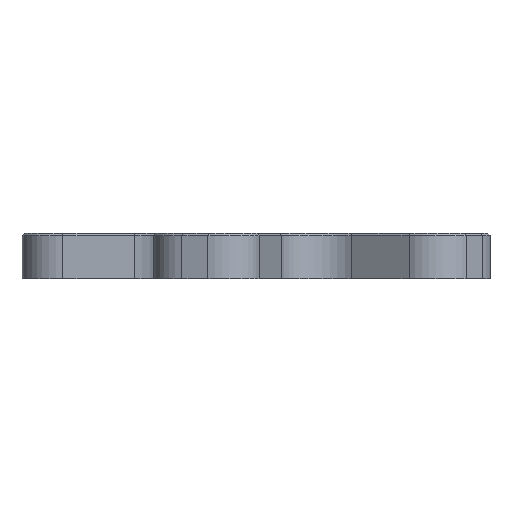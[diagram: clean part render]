
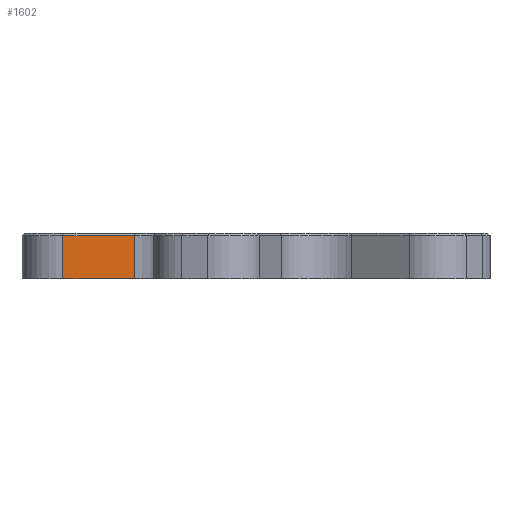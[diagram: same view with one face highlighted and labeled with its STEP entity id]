
A CAD part, left-side view. The second image highlights one B-rep face of the part: STEP entity #1602.
In plain terms, the highlighted planar face has unit normal (-1, 0, 0).
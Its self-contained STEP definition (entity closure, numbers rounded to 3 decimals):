
#632 = CARTESIAN_POINT ( 'NONE',  ( -12., 46., 10. ) ) ;
#723 = DIRECTION ( 'NONE',  ( 0., 0., -1. ) ) ;
#738 = CARTESIAN_POINT ( 'NONE',  ( -12., 46., 0. ) ) ;
#794 = VECTOR ( 'NONE', #4817, 1000. ) ;
#967 = LINE ( 'NONE', #4117, #794 ) ;
#1090 = ORIENTED_EDGE ( 'NONE', *, *, #9017, .F. ) ;
#1205 = LINE ( 'NONE', #7351, #9568 ) ;
#1282 = LINE ( 'NONE', #632, #9021 ) ;
#1602 = ADVANCED_FACE ( 'NONE', ( #6240 ), #2203, .F. ) ;
#2005 = CARTESIAN_POINT ( 'NONE',  ( -12., 46., 9.5 ) ) ;
#2108 = DIRECTION ( 'NONE',  ( 0., 0., -1. ) ) ;
#2114 = DIRECTION ( 'NONE',  ( 1., 0., 0. ) ) ;
#2115 = CARTESIAN_POINT ( 'NONE',  ( -12., 46., 10. ) ) ;
#2203 = PLANE ( 'NONE',  #4865 ) ;
#2660 = EDGE_CURVE ( 'NONE', #3498, #9148, #6561, .T. ) ;
#2823 = CARTESIAN_POINT ( 'NONE',  ( -12., 46., 9.5 ) ) ;
#2836 = VERTEX_POINT ( 'NONE', #738 ) ;
#2842 = DIRECTION ( 'NONE',  ( 0., 1., 0. ) ) ;
#3267 = EDGE_CURVE ( 'NONE', #2836, #3649, #1205, .T. ) ;
#3498 = VERTEX_POINT ( 'NONE', #6288 ) ;
#3649 = VERTEX_POINT ( 'NONE', #5858 ) ;
#3752 = ORIENTED_EDGE ( 'NONE', *, *, #4423, .T. ) ;
#4117 = CARTESIAN_POINT ( 'NONE',  ( -12., 30.28, 10. ) ) ;
#4423 = EDGE_CURVE ( 'NONE', #9148, #2836, #1282, .T. ) ;
#4616 = ORIENTED_EDGE ( 'NONE', *, *, #2660, .T. ) ;
#4817 = DIRECTION ( 'NONE',  ( 0., 0., -1. ) ) ;
#4865 = AXIS2_PLACEMENT_3D ( 'NONE', #2115, #2114, #2108 ) ;
#5858 = CARTESIAN_POINT ( 'NONE',  ( -12., 30.28, 0. ) ) ;
#6240 = FACE_OUTER_BOUND ( 'NONE', #8349, .T. ) ;
#6288 = CARTESIAN_POINT ( 'NONE',  ( -12., 30.28, 9.5 ) ) ;
#6561 = LINE ( 'NONE', #2823, #7598 ) ;
#7351 = CARTESIAN_POINT ( 'NONE',  ( -12., 46., 0. ) ) ;
#7363 = DIRECTION ( 'NONE',  ( 0., -1., 0. ) ) ;
#7598 = VECTOR ( 'NONE', #2842, 1000. ) ;
#8349 = EDGE_LOOP ( 'NONE', ( #1090, #4616, #3752, #8818 ) ) ;
#8818 = ORIENTED_EDGE ( 'NONE', *, *, #3267, .T. ) ;
#9017 = EDGE_CURVE ( 'NONE', #3498, #3649, #967, .T. ) ;
#9021 = VECTOR ( 'NONE', #723, 1000. ) ;
#9148 = VERTEX_POINT ( 'NONE', #2005 ) ;
#9568 = VECTOR ( 'NONE', #7363, 1000. ) ;
